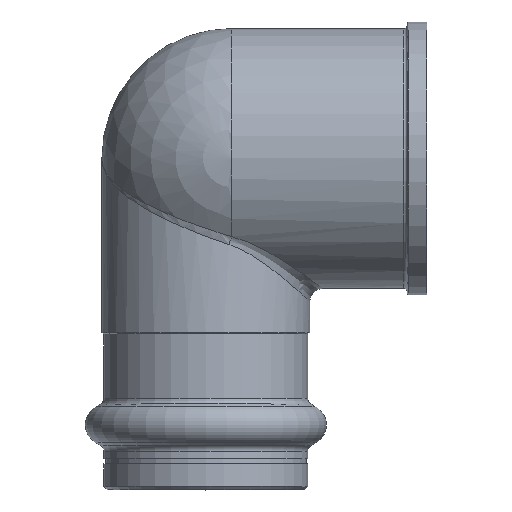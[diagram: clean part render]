
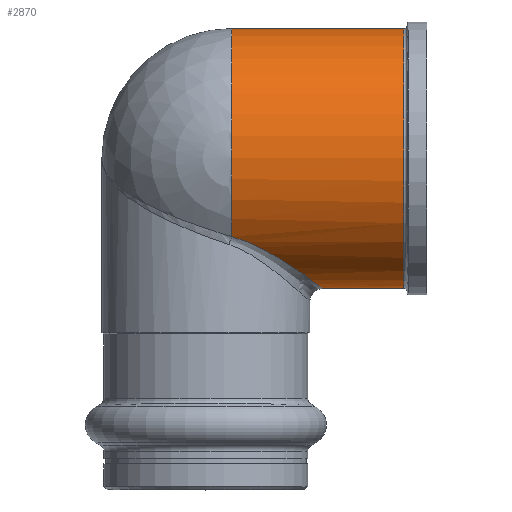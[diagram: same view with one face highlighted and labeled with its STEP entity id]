
A CAD part, top view. The second image highlights one B-rep face of the part: STEP entity #2870.
In plain terms, the highlighted cylindrical face has radius 20 mm (diameter 40 mm), a partial arc.
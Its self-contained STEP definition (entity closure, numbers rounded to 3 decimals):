
#81 = CARTESIAN_POINT ( 'NONE',  ( 17.182, -19.395, 4.973 ) ) ;
#140 = VECTOR ( 'NONE', #470, 1000. ) ;
#182 = FACE_OUTER_BOUND ( 'NONE', #2724, .T. ) ;
#209 = CARTESIAN_POINT ( 'NONE',  ( 13.994, -17.148, 10.302 ) ) ;
#225 = CARTESIAN_POINT ( 'NONE',  ( 14.302, -17.356, 9.946 ) ) ;
#245 = CIRCLE ( 'NONE', #2050, 20. ) ;
#246 = EDGE_CURVE ( 'NONE', #1932, #2208, #988, .T. ) ;
#329 = CARTESIAN_POINT ( 'NONE',  ( 17.482, -19.616, 4.025 ) ) ;
#337 = CARTESIAN_POINT ( 'NONE',  ( 15.685, -18.318, 8.041 ) ) ;
#339 = ORIENTED_EDGE ( 'NONE', *, *, #1942, .T. ) ;
#348 = CARTESIAN_POINT ( 'NONE',  ( 12.352, -16.065, 11.934 ) ) ;
#362 = CARTESIAN_POINT ( 'NONE',  ( 13.034, -16.507, 11.321 ) ) ;
#383 = ORIENTED_EDGE ( 'NONE', *, *, #2097, .F. ) ;
#398 = LINE ( 'NONE', #2597, #2806 ) ;
#470 = DIRECTION ( 'NONE',  ( -1., 0., 0. ) ) ;
#485 = VERTEX_POINT ( 'NONE', #2188 ) ;
#492 = CARTESIAN_POINT ( 'NONE',  ( 4., 20., 0. ) ) ;
#643 = DIRECTION ( 'NONE',  ( 0., -1., 0. ) ) ;
#862 = CARTESIAN_POINT ( 'NONE',  ( 4., -12.06, 15.954 ) ) ;
#881 = DIRECTION ( 'NONE',  ( -1., 0., 0. ) ) ;
#900 = CARTESIAN_POINT ( 'NONE',  ( 16.603, -18.974, 6.34 ) ) ;
#915 = AXIS2_PLACEMENT_3D ( 'NONE', #1113, #881, #643 ) ;
#927 = AXIS2_PLACEMENT_3D ( 'NONE', #1206, #2832, #1456 ) ;
#948 = VERTEX_POINT ( 'NONE', #1086 ) ;
#988 = B_SPLINE_CURVE_WITH_KNOTS ( 'NONE', 3,
 ( #862, #1767, #1784, #1636, #1644, #2119, #2126, #2230, #2251, #348, #362, #209, #225, #1148, #2468, #337, #2684, #1857, #900, #81, #329, #2522, #2105, #2002, #2881, #2314, #1292, #1015 ),
 .UNSPECIFIED., .F., .F.,
 ( 4, 2, 2, 2, 2, 2, 2, 2, 2, 2, 2, 2, 2, 4 ),
 ( 0., 0.003, 0.006, 0.008, 0.009, 0.012, 0.014, 0.015, 0.017, 0.018, 0.021, 0.022, 0.023, 0.024 ),
 .UNSPECIFIED. ) ;
#991 = CARTESIAN_POINT ( 'NONE',  ( 30.5, 0., 0. ) ) ;
#1015 = CARTESIAN_POINT ( 'NONE',  ( 18., -20., 0. ) ) ;
#1033 = ORIENTED_EDGE ( 'NONE', *, *, #2106, .F. ) ;
#1086 = CARTESIAN_POINT ( 'NONE',  ( 30.5, -20., 0. ) ) ;
#1113 = CARTESIAN_POINT ( 'NONE',  ( -18.415, 0., 0. ) ) ;
#1148 = CARTESIAN_POINT ( 'NONE',  ( 14.886, -17.757, 9.211 ) ) ;
#1206 = CARTESIAN_POINT ( 'NONE',  ( 4., 0., 0. ) ) ;
#1234 = DIRECTION ( 'NONE',  ( 0., -1., 0. ) ) ;
#1292 = CARTESIAN_POINT ( 'NONE',  ( 18., -20., 0.508 ) ) ;
#1452 = CARTESIAN_POINT ( 'NONE',  ( 4., -12.06, 15.954 ) ) ;
#1456 = DIRECTION ( 'NONE',  ( 0., -1., 0. ) ) ;
#1636 = CARTESIAN_POINT ( 'NONE',  ( 7.663, -13.426, 14.832 ) ) ;
#1644 = CARTESIAN_POINT ( 'NONE',  ( 8.507, -13.845, 14.447 ) ) ;
#1688 = DIRECTION ( 'NONE',  ( -1., 0., 0. ) ) ;
#1718 = CARTESIAN_POINT ( 'NONE',  ( 18., -20., 0. ) ) ;
#1722 = ORIENTED_EDGE ( 'NONE', *, *, #2194, .T. ) ;
#1736 = CIRCLE ( 'NONE', #927, 20. ) ;
#1767 = CARTESIAN_POINT ( 'NONE',  ( 4.976, -12.328, 15.752 ) ) ;
#1784 = CARTESIAN_POINT ( 'NONE',  ( 5.898, -12.668, 15.485 ) ) ;
#1857 = CARTESIAN_POINT ( 'NONE',  ( 16.389, -18.82, 6.782 ) ) ;
#1919 = VERTEX_POINT ( 'NONE', #492 ) ;
#1932 = VERTEX_POINT ( 'NONE', #1452 ) ;
#1942 = EDGE_CURVE ( 'NONE', #485, #1919, #2557, .T. ) ;
#2002 = CARTESIAN_POINT ( 'NONE',  ( 17.862, -19.897, 2.039 ) ) ;
#2050 = AXIS2_PLACEMENT_3D ( 'NONE', #991, #2628, #1234 ) ;
#2097 = EDGE_CURVE ( 'NONE', #1932, #1919, #1736, .T. ) ;
#2105 = CARTESIAN_POINT ( 'NONE',  ( 17.784, -19.839, 2.542 ) ) ;
#2106 = EDGE_CURVE ( 'NONE', #948, #2208, #398, .T. ) ;
#2119 = CARTESIAN_POINT ( 'NONE',  ( 9.726, -14.502, 13.776 ) ) ;
#2126 = CARTESIAN_POINT ( 'NONE',  ( 10.122, -14.725, 13.538 ) ) ;
#2188 = CARTESIAN_POINT ( 'NONE',  ( 30.5, 20., 0. ) ) ;
#2194 = EDGE_CURVE ( 'NONE', #948, #485, #245, .T. ) ;
#2208 = VERTEX_POINT ( 'NONE', #1718 ) ;
#2230 = CARTESIAN_POINT ( 'NONE',  ( 10.891, -15.172, 13.035 ) ) ;
#2251 = CARTESIAN_POINT ( 'NONE',  ( 11.264, -15.396, 12.771 ) ) ;
#2298 = ORIENTED_EDGE ( 'NONE', *, *, #246, .T. ) ;
#2314 = CARTESIAN_POINT ( 'NONE',  ( 17.974, -19.981, 1.017 ) ) ;
#2468 = CARTESIAN_POINT ( 'NONE',  ( 15.162, -17.95, 8.831 ) ) ;
#2522 = CARTESIAN_POINT ( 'NONE',  ( 17.738, -19.806, 2.792 ) ) ;
#2557 = LINE ( 'NONE', #2766, #140 ) ;
#2596 = CYLINDRICAL_SURFACE ( 'NONE', #915, 20. ) ;
#2597 = CARTESIAN_POINT ( 'NONE',  ( -18.415, -20., 0. ) ) ;
#2628 = DIRECTION ( 'NONE',  ( -1., 0., 0. ) ) ;
#2684 = CARTESIAN_POINT ( 'NONE',  ( 15.931, -18.492, 7.632 ) ) ;
#2724 = EDGE_LOOP ( 'NONE', ( #1722, #339, #383, #2298, #1033 ) ) ;
#2766 = CARTESIAN_POINT ( 'NONE',  ( -18.415, 20., 0. ) ) ;
#2806 = VECTOR ( 'NONE', #1688, 1000. ) ;
#2832 = DIRECTION ( 'NONE',  ( -1., 0., 0. ) ) ;
#2870 = ADVANCED_FACE ( 'NONE', ( #182 ), #2596, .T. ) ;
#2881 = CARTESIAN_POINT ( 'NONE',  ( 17.895, -19.922, 1.783 ) ) ;
